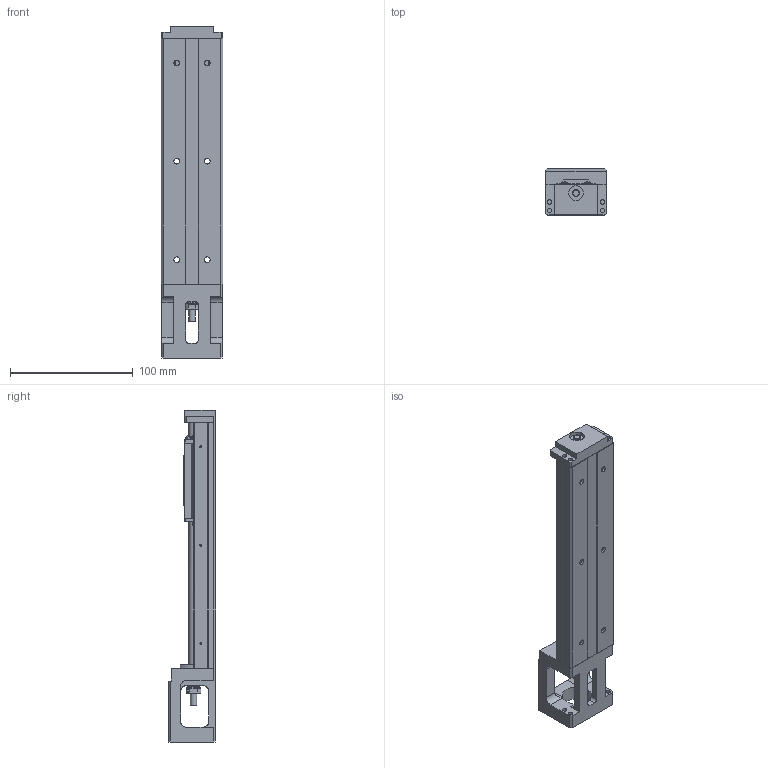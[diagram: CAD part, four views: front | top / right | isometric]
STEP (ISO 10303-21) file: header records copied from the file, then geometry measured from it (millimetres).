
FILE_DESCRIPTION(/* description */ (''),/* implementation_level */ '2;1');
FILE_NAME(/* name */ '26-200low.stp',/* time_stamp */ '2018-02-12T09:11:33+08:00',/* author */ (''),/* organization */ (''),/* preprocessor_version */ 'ST-DEVELOPER v11',/* originating_system */ 'SIEMENS UGS NX 6.0',/* authorisation */ '');
FILE_SCHEMA (('AUTOMOTIVE_DESIGN { 1 0 10303 214 1 1 1 1 }'));
Length unit declared in the file: millimetre
Products named in the file (1): 3.069
Bounding box: 50 x 38.5 x 270 mm (x, y, z)
Volume: 204321.6 mm3; surface area: 72359.1 mm2
Topology: 5 solids, 10 shells, 642 faces, 1673 edges, 1075 vertices
Faces by surface type: plane 333, cylinder 221, cone 59, bspline 20, extrusion 4, torus 4, sphere 1
Full cylindrical faces by diameter (mm): 1.6 x6, 2.5 x5, 2.8 x6, 3.2 x4, 3.3 x2, 3.5 x6, 4 x4, 4.5 x6, 5 x7, 5.7 x1, 6 x10, 8 x31, 9 x2, 10 x1, 12 x2, 16.9 x1
Entity records: 30069 total; most frequent: CARTESIAN_POINT 11191, DIRECTION 2925, ORIENTED_EDGE 2904, EDGE_CURVE 1452, AXIS2_PLACEMENT_3D 1031, VERTEX_POINT 1005, VECTOR 863, LINE 859
